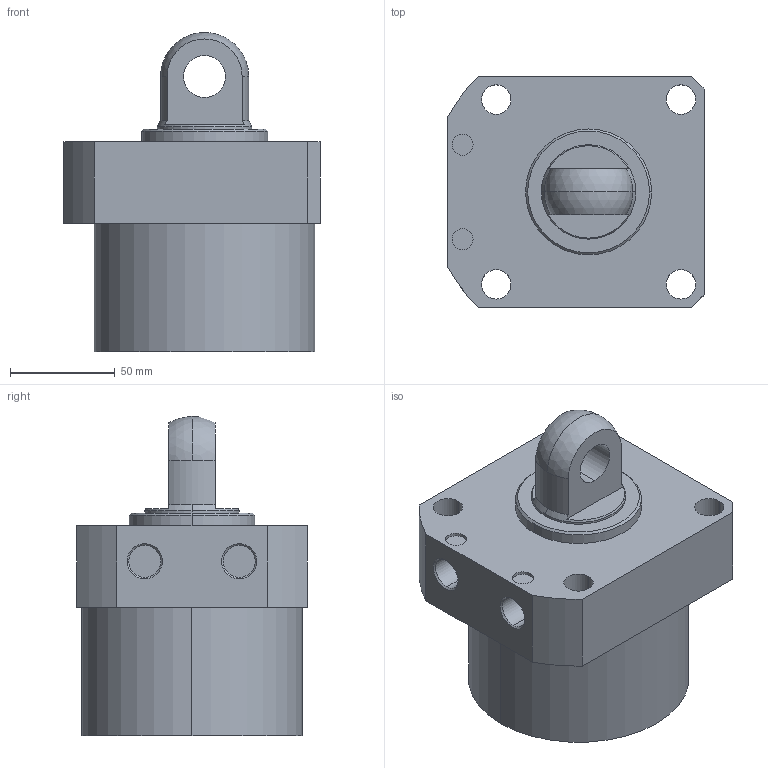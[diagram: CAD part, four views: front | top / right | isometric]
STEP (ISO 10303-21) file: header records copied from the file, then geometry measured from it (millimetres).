
FILE_DESCRIPTION (( 'STEP AP203' ), '1' );
FILE_NAME ('CLLR-105CP-040.STEP', '2019-12-19T02:04:59', ( '' ), ( '' ), 'SwSTEP 2.0', 'SolidWorks 2015', '' );
FILE_SCHEMA (( 'CONFIG_CONTROL_DESIGN' ));
Length unit declared in the file: millimetre
Products named in the file (1): CLLR-105CP-040
Bounding box: 122 x 110 x 152 mm (x, y, z)
Volume: 1054401.7 mm3; surface area: 77800.9 mm2
Topology: 1 solids, 1 shells, 57 faces, 135 edges, 87 vertices
Faces by surface type: cylinder 29, plane 18, cone 8, sphere 2
Entity records: 1770 total; most frequent: DIRECTION 319, CARTESIAN_POINT 292, ORIENTED_EDGE 270, EDGE_CURVE 135, AXIS2_PLACEMENT_3D 130, VERTEX_POINT 87, EDGE_LOOP 74, CIRCLE 72
